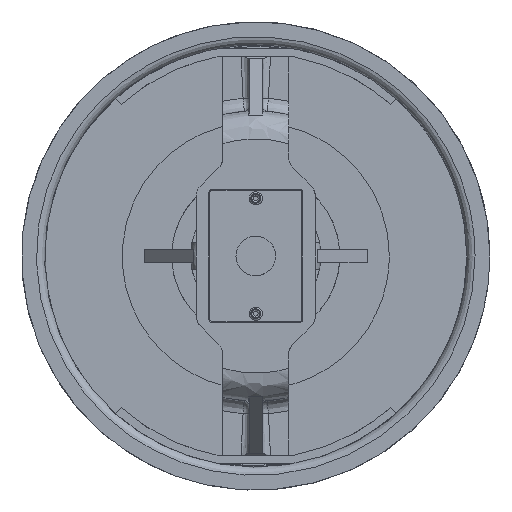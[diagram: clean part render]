
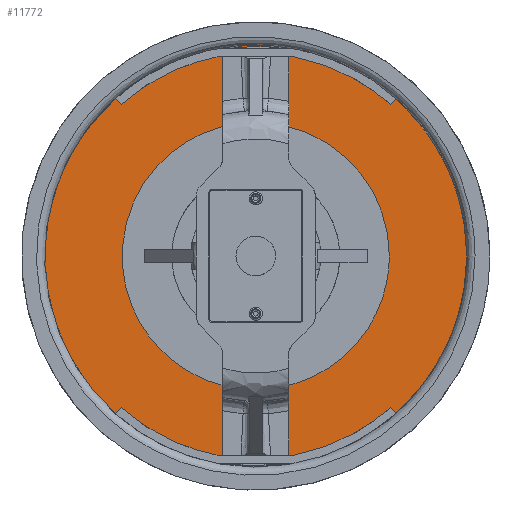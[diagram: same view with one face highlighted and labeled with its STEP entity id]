
A CAD part, front view. The second image highlights one B-rep face of the part: STEP entity #11772.
In plain terms, the highlighted free-form (B-spline) face has degree [1, 1] with [2, 2] control points.
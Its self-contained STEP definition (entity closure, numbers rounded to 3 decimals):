
#11714=CARTESIAN_POINT('V34',(40.5,21.5,
   0.));
#11715=VERTEX_POINT('V34',#11714);
#11723=CARTESIAN_POINT('E42',(40.5,21.5,
   0.));
#11724=CARTESIAN_POINT('E42',(40.5,21.5,
   70.148));
#11725=CARTESIAN_POINT('E42',(-20.25,21.5,
   35.074));
#11726=CARTESIAN_POINT('E42',(-81.0,21.5,0.)
   );
#11727=CARTESIAN_POINT('E42',(-20.25,21.5,
   -35.074));
#11728=CARTESIAN_POINT('E42',(40.5,21.5,
   -70.148));
#11729=CARTESIAN_POINT('E42',(40.5,21.5,
   0.));
#11737=(BOUNDED_CURVE()B_SPLINE_CURVE(2,(#11723,#11724,#11725,
   #11726,#11727,#11728,#11729),.CIRCULAR_ARC.,.T.,.U.)
   B_SPLINE_CURVE_WITH_KNOTS((3,2,2,3),(0.0,35.074,
   70.148,105.222),.UNSPECIFIED.)CURVE()
   GEOMETRIC_REPRESENTATION_ITEM()RATIONAL_B_SPLINE_CURVE((1.0,
   0.5,1.0,0.5,1.0,0.5,1.0)
   )REPRESENTATION_ITEM('E42'));
#11738=EDGE_CURVE('E42',#11715,#11715,#11737,.T.);
#11743=CARTESIAN_POINT('F11',(70.4,21.5,
   -70.4));
#11744=CARTESIAN_POINT('F11',(70.4,21.5,
   70.4));
#11745=CARTESIAN_POINT('F11',(-70.4,21.5,
   -70.4));
#11746=CARTESIAN_POINT('F11',(-70.4,21.5,
   70.4));
#11747=QUASI_UNIFORM_SURFACE('F11',1,1,((#11743,#11745),(#11744,
   #11746)),.PLANE_SURF.,.F.,.F.,.U.);
#11748=CARTESIAN_POINT('V33',(64.,21.5,
   0.0));
#11749=VERTEX_POINT('V33',#11748);
#11750=CARTESIAN_POINT('E41',(64.,21.5,
   0.0));
#11751=CARTESIAN_POINT('E41',(64.,21.5,
   -110.851));
#11752=CARTESIAN_POINT('E41',(-32.,21.5,
   -55.426));
#11753=CARTESIAN_POINT('E41',(-128.,
   21.5,0.));
#11754=CARTESIAN_POINT('E41',(-32.,21.5,
   55.426));
#11755=CARTESIAN_POINT('E41',(64.,21.5,
   110.851));
#11756=CARTESIAN_POINT('E41',(64.,21.5,
   0.0));
#11764=(BOUNDED_CURVE()B_SPLINE_CURVE(2,(#11750,#11751,#11752,
   #11753,#11754,#11755,#11756),.CIRCULAR_ARC.,.T.,.U.)
   B_SPLINE_CURVE_WITH_KNOTS((3,2,2,3),(0.0,11.669,
   23.337,35.006),.UNSPECIFIED.)CURVE()
   GEOMETRIC_REPRESENTATION_ITEM()RATIONAL_B_SPLINE_CURVE((1.0,
   0.5,1.0,0.5,1.0,0.5,1.0)
   )REPRESENTATION_ITEM('E41'));
#11765=EDGE_CURVE('E41',#11749,#11749,#11764,.T.);
#11766=ORIENTED_EDGE('E41',*,*,#11765,.F.);
#11767=EDGE_LOOP('F11',(#11766));
#11768=FACE_OUTER_BOUND('F11',#11767,.T.);
#11769=ORIENTED_EDGE('F20',*,*,#11738,.F.);
#11770=EDGE_LOOP('F11',(#11769));
#11771=FACE_BOUND('F11',#11770,.T.);
#11772=ADVANCED_FACE('F11',(#11768,#11771),#11747,.T.);
